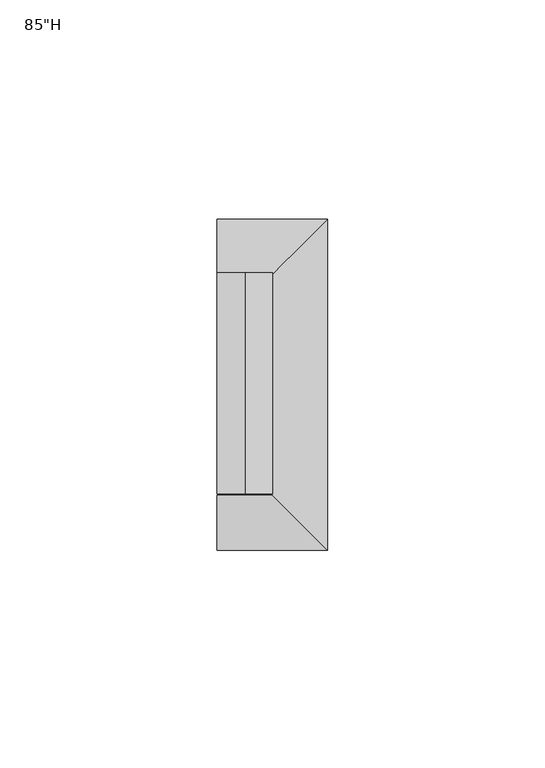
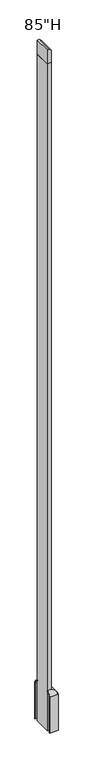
"""IFC4 building model written with IfcOpenShell, lengths in millimetres: furniture geometry."""

from ifc_helpers import new_model, si_unit, frame, origin, place, context, project, spatial, polyline, circle_curve, ellipse_curve, outline, extrude, source, transform, mapped, element, save
from ifc_brep_helpers import plane_surface, cylinder_surface, revolved_surface, advanced_brep


def furniture_baa44a24(model_context):
    return source(origin(), model_context, "Body", "SolidModel", [
        extrude(outline(polyline([(2124.075, 1984.8560512), (2124.075, 1997.5560512), (2162.175, 1997.5560512), (2168.525, 1991.2060512), (2168.525, 1984.8560512), (2124.075, 1984.8560512)])), frame((0.0, -2474.1387877, 0.0), z_axis=(0.0, 1.0, 0.0), x_axis=(0.0, 0.0, 1.0)), (0.0, 0.0, 1.0), 50.8),
        advanced_brep(
        [(1984.8560512, -2410.6387877, 123.825), (1984.8560512, -2410.6387877, 9.525), (1984.8560512, -2412.2262877, 9.525), (1984.8560512, -2412.2262877, 123.825), (1984.8560512, -2423.3387877, 134.9375), (1984.8560512, -2423.3387877, 136.525), (2010.2560512, -2410.6387877, 123.825), (2010.2560512, -2410.6387877, 9.525), (2010.2560512, -2486.8387877, 9.525), (1984.8560512, -2486.8387877, 9.525), (1984.8560512, -2485.2512877, 9.525), (2008.6685512, -2485.2512877, 9.525), (2008.6685512, -2412.2262877, 9.525), (2008.6685512, -2412.2262877, 123.825), (1997.5560512, -2423.3387877, 134.9375), (1997.5560512, -2423.3387877, 136.525), (2010.2560512, -2486.8387877, 123.825), (2008.6685512, -2485.2512877, 123.825), (1997.5560512, -2474.1387877, 134.9375), (1997.5560512, -2474.1387877, 136.525), (1984.8560512, -2486.8387877, 123.825), (1984.8560512, -2474.1387877, 136.525), (1984.8560512, -2474.1387877, 134.9375), (1984.8560512, -2485.2512877, 123.825)],
        [
            (0, 1),
            (1, 2),
            (2, 3),
            (3, 4, circle_curve(frame((1984.8560512, -2423.3387877, 123.825), z_axis=(1.0, 0.0, 0.0), x_axis=(0.0, 1.0, 0.0)), 11.1125)),
            (4, 5),
            (5, 0, circle_curve(frame((1984.8560512, -2423.3387877, 123.825), z_axis=(-1.0, 0.0, 0.0), x_axis=(0.0, 1.0, 0.0)), 12.7)),
            (0, 6),
            (6, 7),
            (7, 1),
            (7, 8),
            (8, 9),
            (9, 10),
            (10, 11),
            (11, 12),
            (12, 2),
            (12, 13),
            (13, 3),
            (13, 14, ellipse_curve(frame((1997.5560512, -2423.3387877, 123.825), z_axis=(0.7071067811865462, -0.7071067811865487, 0.0), x_axis=(0.7071067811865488, 0.7071067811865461, 0.0)), 15.7154482, 11.1125)),
            (14, 4),
            (14, 15),
            (15, 5),
            (15, 6, ellipse_curve(frame((1997.5560512, -2423.3387877, 123.825), z_axis=(-0.7071067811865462, 0.7071067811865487, 0.0), x_axis=(-0.7071067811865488, -0.7071067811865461, 0.0)), 17.9605122, 12.7)),
            (6, 16),
            (16, 8),
            (11, 17),
            (17, 13),
            (17, 18, ellipse_curve(frame((1997.5560512, -2474.1387877, 123.825), z_axis=(-0.7071067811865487, -0.7071067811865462, 0.0), x_axis=(0.7071067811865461, -0.7071067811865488, 0.0)), 15.7154482, 11.1125)),
            (18, 14),
            (18, 19),
            (19, 15),
            (19, 16, ellipse_curve(frame((1997.5560512, -2474.1387877, 123.825), z_axis=(0.7071067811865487, 0.7071067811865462, 0.0), x_axis=(-0.7071067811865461, 0.7071067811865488, 0.0)), 17.9605122, 12.7)),
            (20, 21, circle_curve(frame((1984.8560512, -2474.1387877, 123.825), z_axis=(-1.0, 0.0, 0.0), x_axis=(0.0, -1.0, 0.0)), 12.7)),
            (21, 22),
            (22, 23, circle_curve(frame((1984.8560512, -2474.1387877, 123.825), z_axis=(1.0, 0.0, 0.0), x_axis=(0.0, -1.0, 0.0)), 11.1125)),
            (23, 10),
            (9, 20),
            (16, 20),
            (23, 17),
            (22, 18),
            (21, 19),
        ],
        [
            plane_surface(frame((1984.8560512, -2423.3387877, 136.525), z_axis=(-1.0, 0.0, 0.0), x_axis=(0.0, 0.0, 1.0))),
            plane_surface(frame((1984.8560512, -2410.6387877, 123.825), z_axis=(0.0, 1.0, 0.0), x_axis=(1.0, 0.0, 0.0))),
            plane_surface(frame((1984.8560512, -2410.6387877, 9.525), z_axis=(0.0, 0.0, -1.0), x_axis=(1.0, 0.0, 0.0))),
            plane_surface(frame((1984.8560512, -2412.2262877, 9.525), z_axis=(0.0, -1.0, 0.0), x_axis=(1.0, 0.0, 0.0))),
            revolved_surface(polyline([(2008.6685512, -2412.2262877, 123.825), (1984.8560512, -2412.2262877, 123.825)]), (1984.8560512, -2423.3387877, 123.825), (1.0, 0.0, 0.0)),
            plane_surface(frame((1984.8560512, -2423.3387877, 134.9375), z_axis=(0.0, -1.0, 0.0), x_axis=(1.0, 0.0, 0.0))),
            cylinder_surface(frame((1984.8560512, -2423.3387877, 123.825), z_axis=(-1.0, 0.0, 0.0), x_axis=(0.0, 1.0, 0.0)), 12.7),
            plane_surface(frame((2010.2560512, -2410.6387877, 123.825), z_axis=(1.0, 0.0, 0.0), x_axis=(0.0, -1.0, 0.0))),
            plane_surface(frame((2008.6685512, -2412.2262877, 9.525), z_axis=(-1.0, 0.0, 0.0), x_axis=(0.0, -1.0, 0.0))),
            revolved_surface(polyline([(2008.6685512, -2485.2512877, 123.825), (2008.6685512, -2412.2262877, 123.825)]), (1997.5560512, -2423.3387877, 123.825), (0.0, -1.0, 0.0)),
            plane_surface(frame((1997.5560512, -2423.3387877, 134.9375), z_axis=(-1.0, 0.0, 0.0), x_axis=(0.0, -1.0, 0.0))),
            cylinder_surface(frame((1997.5560512, -2423.3387877, 123.825), z_axis=(0.0, 1.0, 0.0), x_axis=(1.0, 0.0, 0.0)), 12.7),
            plane_surface(frame((1984.8560512, -2474.1387877, 136.525), z_axis=(-1.0, 0.0, 0.0), x_axis=(0.0, 0.0, 1.0))),
            plane_surface(frame((2010.2560512, -2486.8387877, 123.825), z_axis=(0.0, -1.0, 0.0), x_axis=(-1.0, 0.0, 0.0))),
            plane_surface(frame((2008.6685512, -2485.2512877, 9.525), z_axis=(0.0, 1.0, 0.0), x_axis=(-1.0, 0.0, 0.0))),
            revolved_surface(polyline([(1984.8560512, -2485.2512877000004, 123.825), (2008.6685512, -2485.2512877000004, 123.825)]), (1997.5560512, -2474.1387877, 123.825), (-1.0, 0.0, 0.0)),
            plane_surface(frame((1997.5560512, -2474.1387877, 134.9375), z_axis=(0.0, 1.0, 0.0), x_axis=(-1.0, 0.0, 0.0))),
            cylinder_surface(frame((1997.5560512, -2474.1387877, 123.825), z_axis=(1.0, 0.0, 0.0), x_axis=(0.0, -1.0, 0.0)), 12.7),
        ],
        [
            (0, [[1, 2, 3, 4, 5, 6]]),
            (1, [[-1, 7, 8, 9]]),
            (2, [[-2, -9, 10, 11, 12, 13, 14, 15]]),
            (3, [[-3, -15, 16, 17]]),
            (4, [[-4, -17, 18, 19]]),
            (5, [[-5, -19, 20, 21]]),
            (6, [[-6, -21, 22, -7]]),
            (7, [[-8, 23, 24, -10]]),
            (8, [[-16, -14, 25, 26]]),
            (9, [[-18, -26, 27, 28]]),
            (10, [[-20, -28, 29, 30]]),
            (11, [[-22, -30, 31, -23]]),
            (12, [[32, 33, 34, 35, -12, 36]]),
            (13, [[-24, 37, -36, -11]]),
            (14, [[-25, -13, -35, 38]]),
            (15, [[-27, -38, -34, 39]]),
            (16, [[-29, -39, -33, 40]]),
            (17, [[-31, -40, -32, -37]]),
        ],
    ),
        extrude(outline(polyline([(1984.8560512, -2474.1387877), (1984.8560512, -2423.3387877), (1997.5560512, -2423.3387877), (1997.5560512, -2474.1387877), (1984.8560512, -2474.1387877)])), frame((0.0, 0.0, 9.525), z_axis=(0.0, 0.0, 1.0), x_axis=(1.0, 0.0, 0.0)), (0.0, 0.0, 1.0), 2114.55),
    ])


if __name__ == "__main__":
    model = new_model("IFC4")
    model_context = context("Model", 3, world=origin())
    ifc_project = project(units=[si_unit("LENGTHUNIT", "METRE", prefix="MILLI")], contexts=[model_context])
    site = spatial("IfcSite", under=ifc_project)
    building = spatial("IfcBuilding", under=site)
    placement = place(None, origin())
    furniture_shape = furniture_baa44a24(model_context)
    element("IfcFurniture", 1, ObjectType="HermanMiller_ActionOffice_A1271_FinishedEndStandardBase : 85\"H", at=placement, inside=building, context=model_context, shape_type="MappedRepresentation", body=[
        mapped(furniture_shape, transform((0.0, 0.0, 0.0), x_axis=(1.0, 0.0, 0.0), y_axis=(0.0, 1.0, 0.0), z_axis=(0.0, 0.0, 1.0))),
    ])
    save(model, "model.ifc")
